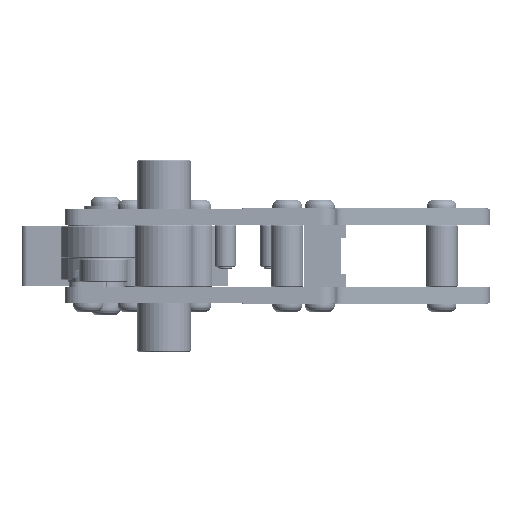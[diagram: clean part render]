
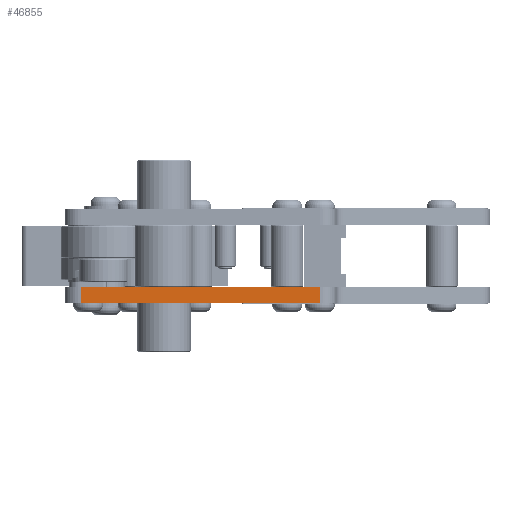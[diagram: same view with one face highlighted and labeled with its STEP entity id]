
A CAD part, left-side view. The second image highlights one B-rep face of the part: STEP entity #46855.
In plain terms, the highlighted planar face has unit normal (-1, 0, 0).
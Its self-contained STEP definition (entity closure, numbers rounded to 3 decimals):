
#4426=PLANE('',#49595);
#5977=LINE('',#61995,#10677);
#6154=LINE('',#62695,#10854);
#6155=LINE('',#62698,#10855);
#6156=LINE('',#62699,#10856);
#10677=VECTOR('',#52015,225.);
#10854=VECTOR('',#52730,15.);
#10855=VECTOR('',#52733,15.);
#10856=VECTOR('',#52734,225.);
#16058=FACE_OUTER_BOUND('',#18681,.T.);
#18681=EDGE_LOOP('',(#33809,#33810,#33811,#33812));
#22204=VERTEX_POINT('',#61992);
#22205=VERTEX_POINT('',#61994);
#22459=VERTEX_POINT('',#62693);
#22460=VERTEX_POINT('',#62697);
#26686=EDGE_CURVE('',#22205,#22204,#5977,.T.);
#27020=EDGE_CURVE('',#22205,#22459,#6154,.T.);
#27021=EDGE_CURVE('',#22460,#22204,#6155,.T.);
#27022=EDGE_CURVE('',#22459,#22460,#6156,.T.);
#33809=ORIENTED_EDGE('',*,*,#27020,.F.);
#33810=ORIENTED_EDGE('',*,*,#26686,.T.);
#33811=ORIENTED_EDGE('',*,*,#27021,.F.);
#33812=ORIENTED_EDGE('',*,*,#27022,.F.);
#46855=ADVANCED_FACE('',(#16058),#4426,.T.);
#49595=AXIS2_PLACEMENT_3D('',#62696,#52731,#52732);
#52015=DIRECTION('',(0.,-1.,0.));
#52730=DIRECTION('',(0.,0.,1.));
#52731=DIRECTION('center_axis',(-1.,0.,0.));
#52732=DIRECTION('ref_axis',(0.,-1.,0.));
#52733=DIRECTION('',(0.,0.,-1.));
#52734=DIRECTION('',(0.,-1.,0.));
#61992=CARTESIAN_POINT('',(0.,15.,0.));
#61994=CARTESIAN_POINT('',(0.,240.,0.));
#61995=CARTESIAN_POINT('',(0.,255.,0.));
#62693=CARTESIAN_POINT('',(0.,240.,15.));
#62695=CARTESIAN_POINT('',(0.,240.,0.));
#62696=CARTESIAN_POINT('Origin',(0.,255.,0.));
#62697=CARTESIAN_POINT('',(0.,15.,15.));
#62698=CARTESIAN_POINT('',(0.,15.,0.));
#62699=CARTESIAN_POINT('',(0.,255.,15.));
